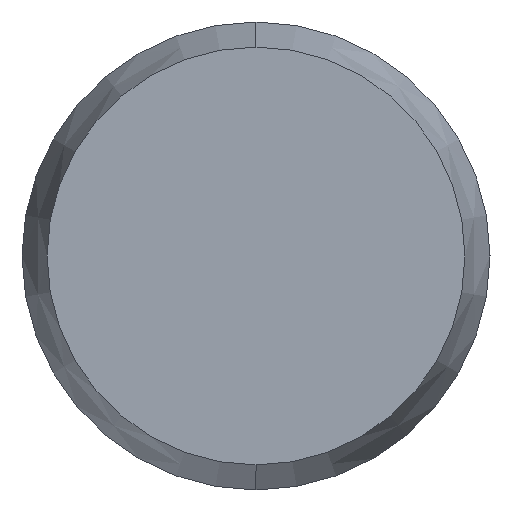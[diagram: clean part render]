
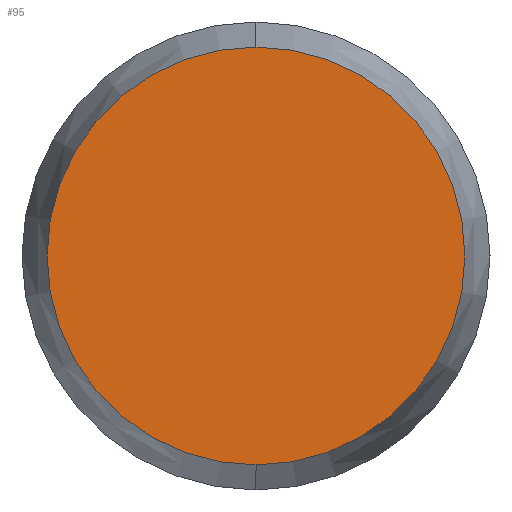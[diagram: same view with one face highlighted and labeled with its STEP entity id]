
A CAD part, left-side view. The second image highlights one B-rep face of the part: STEP entity #95.
In plain terms, the highlighted planar face has unit normal (-1, 0, 0).
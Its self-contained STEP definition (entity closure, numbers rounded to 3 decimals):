
#50 = EDGE_CURVE ( 'NONE', #61, #62, #204, .T. ) ;
#61 = VERTEX_POINT ( 'NONE', #260 ) ;
#62 = VERTEX_POINT ( 'NONE', #259 ) ;
#95 = ADVANCED_FACE ( 'NONE', ( #196 ), #191, .F. ) ;
#96 = EDGE_LOOP ( 'NONE', ( #97, #98 ) ) ;
#97 = ORIENTED_EDGE ( 'NONE', *, *, #50, .F. ) ;
#98 = ORIENTED_EDGE ( 'NONE', *, *, #199, .F. ) ;
#113 = DIRECTION ( 'NONE',  ( 0., 0., -1. ) ) ;
#114 = DIRECTION ( 'NONE',  ( 1., 0., 0. ) ) ;
#115 = AXIS2_PLACEMENT_3D ( 'NONE', #121, #114, #113 ) ;
#116 = CIRCLE ( 'NONE', #115, 0.893 ) ;
#121 = CARTESIAN_POINT ( 'NONE',  ( -2.5, 0., 0. ) ) ;
#186 = DIRECTION ( 'NONE',  ( 0., 0., -1. ) ) ;
#187 = DIRECTION ( 'NONE',  ( 1., 0., 0. ) ) ;
#188 = CARTESIAN_POINT ( 'NONE',  ( -2.5, 0., 0. ) ) ;
#189 = AXIS2_PLACEMENT_3D ( 'NONE', #188, #187, #186 ) ;
#191 = PLANE ( 'NONE',  #189 ) ;
#196 = FACE_OUTER_BOUND ( 'NONE', #96, .T. ) ;
#199 = EDGE_CURVE ( 'NONE', #62, #61, #116, .T. ) ;
#201 = DIRECTION ( 'NONE',  ( 1., 0., 0. ) ) ;
#202 = CARTESIAN_POINT ( 'NONE',  ( -2.5, 0., 0. ) ) ;
#203 = AXIS2_PLACEMENT_3D ( 'NONE', #202, #201, #215 ) ;
#204 = CIRCLE ( 'NONE', #203, 0.893 ) ;
#215 = DIRECTION ( 'NONE',  ( 0., 0., -1. ) ) ;
#259 = CARTESIAN_POINT ( 'NONE',  ( -2.5, 0., -0.893 ) ) ;
#260 = CARTESIAN_POINT ( 'NONE',  ( -2.5, 0., 0.893 ) ) ;
